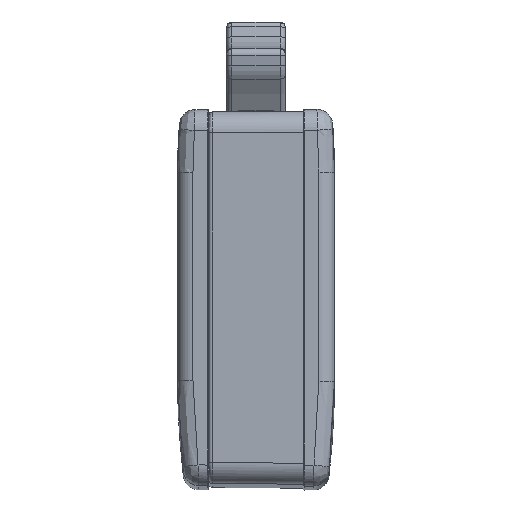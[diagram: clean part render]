
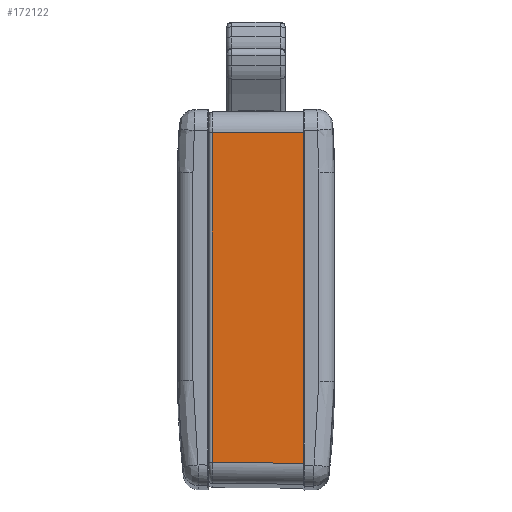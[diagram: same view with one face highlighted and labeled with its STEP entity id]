
A CAD part, top view. The second image highlights one B-rep face of the part: STEP entity #172122.
In plain terms, the highlighted planar face has unit normal (-0.009, 0, 1).
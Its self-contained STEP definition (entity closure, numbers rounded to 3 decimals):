
#48148=DIRECTION('',(0.,-1.,0.));
#48149=VECTOR('',#48148,31.657);
#48150=CARTESIAN_POINT('',(12.,33.829,221.829));
#48151=LINE('',#48150,#48149);
#48394=DIRECTION('',(0.,1.,0.));
#48395=VECTOR('',#48394,31.505);
#48396=CARTESIAN_POINT('',(3.297,2.247,221.753));
#48397=LINE('',#48396,#48395);
#48401=DIRECTION('',(-1.,-0.009,-0.009));
#48402=VECTOR('',#48401,8.703);
#48403=CARTESIAN_POINT('',(12.,33.829,221.829));
#48404=LINE('',#48403,#48402);
#48408=DIRECTION('',(-1.,0.009,-0.009));
#48409=VECTOR('',#48408,8.703);
#48410=CARTESIAN_POINT('',(12.,2.171,221.829));
#48411=LINE('',#48410,#48409);
#48447=CARTESIAN_POINT('',(3.297,33.753,221.753));
#98000=CARTESIAN_POINT('',(12.,33.829,221.829));
#98001=CARTESIAN_POINT('',(12.,2.171,221.829));
#98002=VERTEX_POINT('',#98000);
#98003=VERTEX_POINT('',#98001);
#98397=VERTEX_POINT('',#48447);
#98398=CARTESIAN_POINT('',(3.297,2.247,221.753));
#98399=VERTEX_POINT('',#98398);
#172108=CARTESIAN_POINT('',(3.,35.75,221.75));
#172109=DIRECTION('',(0.009,0.,-1.));
#172110=DIRECTION('',(0.,1.,0.));
#172111=AXIS2_PLACEMENT_3D('',#172108,#172109,#172110);
#172112=PLANE('',#172111);
#172114=ORIENTED_EDGE('',*,*,#172113,.T.);
#172116=ORIENTED_EDGE('',*,*,#172115,.F.);
#172117=ORIENTED_EDGE('',*,*,#171594,.T.);
#172119=ORIENTED_EDGE('',*,*,#172118,.T.);
#172120=EDGE_LOOP('',(#172114,#172116,#172117,#172119));
#172121=FACE_OUTER_BOUND('',#172120,.F.);
#171594=EDGE_CURVE('',#98002,#98003,#48151,.T.);
#172113=EDGE_CURVE('',#98399,#98397,#48397,.T.);
#172115=EDGE_CURVE('',#98002,#98397,#48404,.T.);
#172118=EDGE_CURVE('',#98003,#98399,#48411,.T.);
#172122=ADVANCED_FACE('',(#172121),#172112,.F.);
